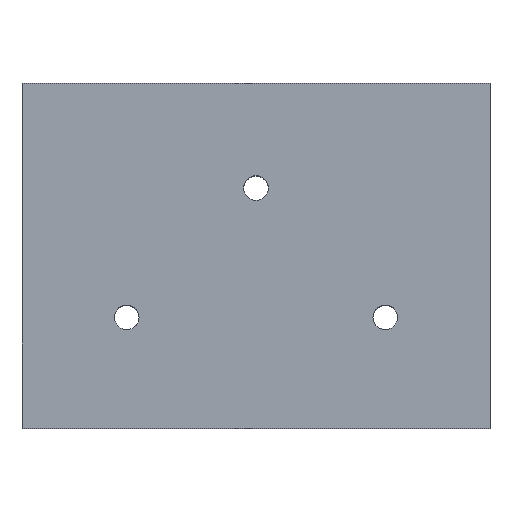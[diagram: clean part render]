
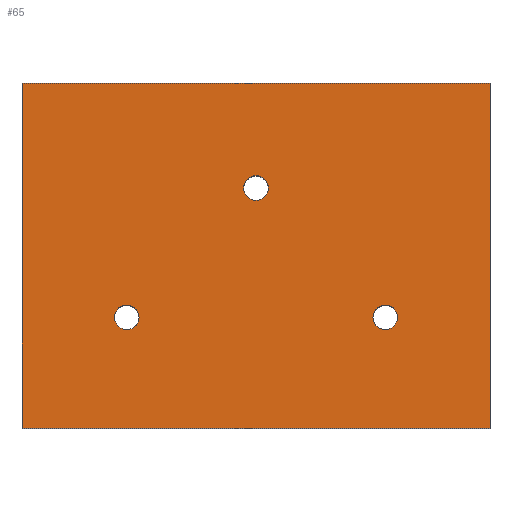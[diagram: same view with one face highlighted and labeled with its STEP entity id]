
A CAD part, top view. The second image highlights one B-rep face of the part: STEP entity #65.
In plain terms, the highlighted planar face has unit normal (0, 0, 1).
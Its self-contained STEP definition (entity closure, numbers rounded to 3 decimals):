
#39 = CARTESIAN_POINT ( 'NONE',  ( 0., 0., 10. ) ) ;
#43 = DIRECTION ( 'NONE',  ( 0., 0., -1. ) ) ;
#56 = DIRECTION ( 'NONE',  ( 1., 0., 0. ) ) ;
#65 = ADVANCED_FACE ( 'NONE', ( #525, #1041, #774, #1034 ), #670, .F. ) ;
#76 = VERTEX_POINT ( 'NONE', #1545 ) ;
#96 = CIRCLE ( 'NONE', #716, 1. ) ;
#165 = AXIS2_PLACEMENT_3D ( 'NONE', #415, #43, #184 ) ;
#177 = EDGE_LOOP ( 'NONE', ( #767, #1205, #1350, #893 ) ) ;
#184 = DIRECTION ( 'NONE',  ( -1., 0., 0. ) ) ;
#198 = VERTEX_POINT ( 'NONE', #1338 ) ;
#207 = CARTESIAN_POINT ( 'NONE',  ( 29.5, 9., 10. ) ) ;
#262 = ORIENTED_EDGE ( 'NONE', *, *, #517, .F. ) ;
#283 = EDGE_CURVE ( 'NONE', #1066, #377, #1464, .T. ) ;
#284 = DIRECTION ( 'NONE',  ( 0., 0., 1. ) ) ;
#287 = ORIENTED_EDGE ( 'NONE', *, *, #1223, .F. ) ;
#313 = ORIENTED_EDGE ( 'NONE', *, *, #847, .F. ) ;
#317 = CIRCLE ( 'NONE', #941, 1. ) ;
#368 = EDGE_LOOP ( 'NONE', ( #313, #552 ) ) ;
#377 = VERTEX_POINT ( 'NONE', #1535 ) ;
#384 = EDGE_CURVE ( 'NONE', #630, #1348, #631, .T. ) ;
#401 = EDGE_LOOP ( 'NONE', ( #732, #623 ) ) ;
#407 = DIRECTION ( 'NONE',  ( 0., 0., 1. ) ) ;
#415 = CARTESIAN_POINT ( 'NONE',  ( 0., 0., 10. ) ) ;
#443 = LINE ( 'NONE', #927, #591 ) ;
#476 = VERTEX_POINT ( 'NONE', #554 ) ;
#509 = AXIS2_PLACEMENT_3D ( 'NONE', #698, #1037, #1206 ) ;
#511 = VERTEX_POINT ( 'NONE', #693 ) ;
#517 = EDGE_CURVE ( 'NONE', #911, #198, #96, .T. ) ;
#525 = FACE_OUTER_BOUND ( 'NONE', #177, .T. ) ;
#552 = ORIENTED_EDGE ( 'NONE', *, *, #384, .F. ) ;
#554 = CARTESIAN_POINT ( 'NONE',  ( 38., 0., 10. ) ) ;
#568 = DIRECTION ( 'NONE',  ( 0., 0., 1. ) ) ;
#591 = VECTOR ( 'NONE', #1442, 1000. ) ;
#618 = CARTESIAN_POINT ( 'NONE',  ( 0., 0., 10. ) ) ;
#623 = ORIENTED_EDGE ( 'NONE', *, *, #1235, .F. ) ;
#630 = VERTEX_POINT ( 'NONE', #1381 ) ;
#631 = CIRCLE ( 'NONE', #1106, 1. ) ;
#637 = CARTESIAN_POINT ( 'NONE',  ( 29.5, 9., 10. ) ) ;
#643 = DIRECTION ( 'NONE',  ( -1., 0., 0. ) ) ;
#658 = VECTOR ( 'NONE', #1406, 1000. ) ;
#670 = PLANE ( 'NONE',  #165 ) ;
#693 = CARTESIAN_POINT ( 'NONE',  ( 0., 0., 10. ) ) ;
#695 = CARTESIAN_POINT ( 'NONE',  ( 38., 28., 10. ) ) ;
#698 = CARTESIAN_POINT ( 'NONE',  ( 19., 19.5, 10. ) ) ;
#716 = AXIS2_PLACEMENT_3D ( 'NONE', #207, #824, #1334 ) ;
#726 = EDGE_CURVE ( 'NONE', #511, #476, #1519, .T. ) ;
#728 = LINE ( 'NONE', #618, #1523 ) ;
#732 = ORIENTED_EDGE ( 'NONE', *, *, #960, .F. ) ;
#757 = VERTEX_POINT ( 'NONE', #1029 ) ;
#766 = DIRECTION ( 'NONE',  ( 1., 0., 0. ) ) ;
#767 = ORIENTED_EDGE ( 'NONE', *, *, #1469, .T. ) ;
#774 = FACE_BOUND ( 'NONE', #401, .T. ) ;
#817 = CIRCLE ( 'NONE', #509, 1. ) ;
#819 = CARTESIAN_POINT ( 'NONE',  ( 8.5, 9., 10. ) ) ;
#824 = DIRECTION ( 'NONE',  ( 0., 0., 1. ) ) ;
#847 = EDGE_CURVE ( 'NONE', #1348, #630, #817, .T. ) ;
#890 = CARTESIAN_POINT ( 'NONE',  ( 8.5, 9., 10. ) ) ;
#893 = ORIENTED_EDGE ( 'NONE', *, *, #283, .T. ) ;
#911 = VERTEX_POINT ( 'NONE', #1091 ) ;
#927 = CARTESIAN_POINT ( 'NONE',  ( 38., 0., 10. ) ) ;
#941 = AXIS2_PLACEMENT_3D ( 'NONE', #637, #407, #766 ) ;
#960 = EDGE_CURVE ( 'NONE', #76, #757, #1298, .T. ) ;
#1008 = CARTESIAN_POINT ( 'NONE',  ( 19., 19.5, 10. ) ) ;
#1024 = EDGE_CURVE ( 'NONE', #476, #1066, #443, .T. ) ;
#1029 = CARTESIAN_POINT ( 'NONE',  ( 9.5, 9., 10. ) ) ;
#1034 = FACE_BOUND ( 'NONE', #1566, .T. ) ;
#1037 = DIRECTION ( 'NONE',  ( 0., 0., 1. ) ) ;
#1041 = FACE_BOUND ( 'NONE', #368, .T. ) ;
#1066 = VERTEX_POINT ( 'NONE', #695 ) ;
#1087 = DIRECTION ( 'NONE',  ( 0., -1., 0. ) ) ;
#1091 = CARTESIAN_POINT ( 'NONE',  ( 28.5, 9., 10. ) ) ;
#1106 = AXIS2_PLACEMENT_3D ( 'NONE', #1008, #284, #1397 ) ;
#1136 = DIRECTION ( 'NONE',  ( 0., 0., 1. ) ) ;
#1141 = CARTESIAN_POINT ( 'NONE',  ( 0., 28., 10. ) ) ;
#1160 = CARTESIAN_POINT ( 'NONE',  ( 18., 19.5, 10. ) ) ;
#1205 = ORIENTED_EDGE ( 'NONE', *, *, #726, .T. ) ;
#1206 = DIRECTION ( 'NONE',  ( 1., 0., 0. ) ) ;
#1217 = VECTOR ( 'NONE', #643, 1000. ) ;
#1223 = EDGE_CURVE ( 'NONE', #198, #911, #317, .T. ) ;
#1235 = EDGE_CURVE ( 'NONE', #757, #76, #1343, .T. ) ;
#1237 = AXIS2_PLACEMENT_3D ( 'NONE', #890, #1136, #1522 ) ;
#1298 = CIRCLE ( 'NONE', #1461, 1. ) ;
#1334 = DIRECTION ( 'NONE',  ( 1., 0., 0. ) ) ;
#1338 = CARTESIAN_POINT ( 'NONE',  ( 30.5, 9., 10. ) ) ;
#1343 = CIRCLE ( 'NONE', #1237, 1. ) ;
#1348 = VERTEX_POINT ( 'NONE', #1160 ) ;
#1350 = ORIENTED_EDGE ( 'NONE', *, *, #1024, .T. ) ;
#1381 = CARTESIAN_POINT ( 'NONE',  ( 20., 19.5, 10. ) ) ;
#1397 = DIRECTION ( 'NONE',  ( 1., 0., 0. ) ) ;
#1406 = DIRECTION ( 'NONE',  ( 1., 0., 0. ) ) ;
#1442 = DIRECTION ( 'NONE',  ( 0., 1., 0. ) ) ;
#1461 = AXIS2_PLACEMENT_3D ( 'NONE', #819, #568, #56 ) ;
#1464 = LINE ( 'NONE', #1141, #1217 ) ;
#1469 = EDGE_CURVE ( 'NONE', #377, #511, #728, .T. ) ;
#1519 = LINE ( 'NONE', #39, #658 ) ;
#1522 = DIRECTION ( 'NONE',  ( 1., 0., 0. ) ) ;
#1523 = VECTOR ( 'NONE', #1087, 1000. ) ;
#1535 = CARTESIAN_POINT ( 'NONE',  ( 0., 28., 10. ) ) ;
#1545 = CARTESIAN_POINT ( 'NONE',  ( 7.5, 9., 10. ) ) ;
#1566 = EDGE_LOOP ( 'NONE', ( #262, #287 ) ) ;
